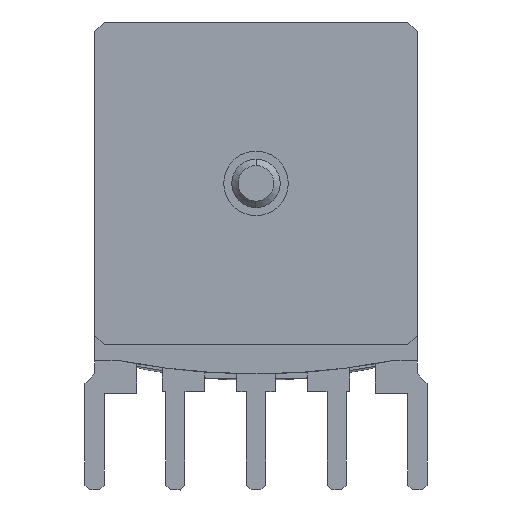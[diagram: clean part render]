
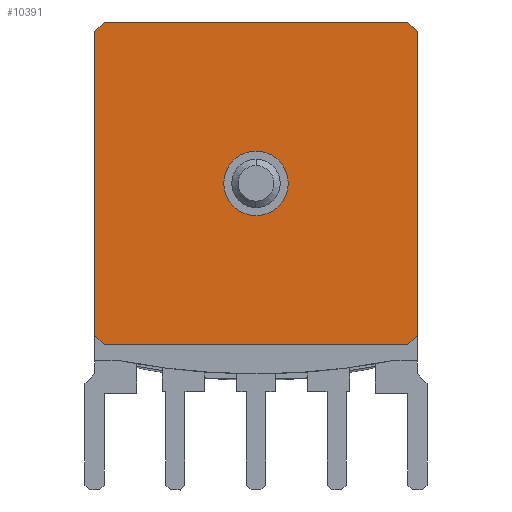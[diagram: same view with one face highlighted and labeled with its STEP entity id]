
A CAD part, front view. The second image highlights one B-rep face of the part: STEP entity #10391.
In plain terms, the highlighted planar face has unit normal (0, -1, 0).
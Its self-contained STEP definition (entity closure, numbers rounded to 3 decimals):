
#4048 = CIRCLE ( 'NONE', #4411, 1. ) ;
#4272 = DIRECTION ( 'NONE',  ( 0., 0., 1. ) ) ;
#4273 = DIRECTION ( 'NONE',  ( 0., 1., 0. ) ) ;
#4274 = CARTESIAN_POINT ( 'NONE',  ( 0., -5.825, 6.1 ) ) ;
#4275 = AXIS2_PLACEMENT_3D ( 'NONE', #4274, #4273, #4272 ) ;
#4276 = CIRCLE ( 'NONE', #4275, 1. ) ;
#4311 = CARTESIAN_POINT ( 'NONE',  ( 1., -5.825, 6.1 ) ) ;
#4409 = DIRECTION ( 'NONE',  ( 0., 1., 0. ) ) ;
#4410 = CARTESIAN_POINT ( 'NONE',  ( 0., -5.825, 6.1 ) ) ;
#4411 = AXIS2_PLACEMENT_3D ( 'NONE', #4410, #4409, #4494 ) ;
#4456 = DIRECTION ( 'NONE',  ( 0., 0., 1. ) ) ;
#4457 = DIRECTION ( 'NONE',  ( 0., 1., 0. ) ) ;
#4458 = CARTESIAN_POINT ( 'NONE',  ( 0., -5.825, 6.1 ) ) ;
#4459 = AXIS2_PLACEMENT_3D ( 'NONE', #4458, #4457, #4456 ) ;
#4460 = CIRCLE ( 'NONE', #4459, 1. ) ;
#4492 = CARTESIAN_POINT ( 'NONE',  ( 0., -5.825, 7.1 ) ) ;
#4493 = CARTESIAN_POINT ( 'NONE',  ( -1., -5.825, 6.1 ) ) ;
#4494 = DIRECTION ( 'NONE',  ( 0., 0., 1. ) ) ;
#5255 = CARTESIAN_POINT ( 'NONE',  ( -4.698, -5.825, 1.1 ) ) ;
#5256 = DIRECTION ( 'NONE',  ( 1., 0., 0. ) ) ;
#5257 = VECTOR ( 'NONE', #5256, 1000. ) ;
#5258 = CARTESIAN_POINT ( 'NONE',  ( -4.998, -5.825, 1.1 ) ) ;
#5259 = LINE ( 'NONE', #5258, #5257 ) ;
#5260 = CARTESIAN_POINT ( 'NONE',  ( 4.702, -5.825, 1.1 ) ) ;
#5393 = CARTESIAN_POINT ( 'NONE',  ( -4.998, -5.825, 1.4 ) ) ;
#6980 = DIRECTION ( 'NONE',  ( 0.707, 0., -0.707 ) ) ;
#6989 = CARTESIAN_POINT ( 'NONE',  ( -4.998, -5.825, 10.8 ) ) ;
#6990 = LINE ( 'NONE', #7055, #7007 ) ;
#7007 = VECTOR ( 'NONE', #7056, 1000. ) ;
#7050 = LINE ( 'NONE', #7060, #7059 ) ;
#7055 = CARTESIAN_POINT ( 'NONE',  ( -4.998, -5.825, 1.1 ) ) ;
#7056 = DIRECTION ( 'NONE',  ( 0., 0., -1. ) ) ;
#7059 = VECTOR ( 'NONE', #6980, 1000. ) ;
#7060 = CARTESIAN_POINT ( 'NONE',  ( -4.998, -5.825, 1.4 ) ) ;
#8080 = CARTESIAN_POINT ( 'NONE',  ( 5.002, -5.825, 10.8 ) ) ;
#8081 = DIRECTION ( 'NONE',  ( 0., 0., 1. ) ) ;
#8082 = VECTOR ( 'NONE', #8081, 1000. ) ;
#8083 = CARTESIAN_POINT ( 'NONE',  ( 5.002, -5.825, 1.4 ) ) ;
#8084 = LINE ( 'NONE', #8083, #8082 ) ;
#8085 = CARTESIAN_POINT ( 'NONE',  ( 5.002, -5.825, 1.4 ) ) ;
#8086 = DIRECTION ( 'NONE',  ( 0.707, 0., 0.707 ) ) ;
#8087 = VECTOR ( 'NONE', #8086, 1000. ) ;
#8088 = CARTESIAN_POINT ( 'NONE',  ( 4.702, -5.825, 1.1 ) ) ;
#8096 = CARTESIAN_POINT ( 'NONE',  ( 4.702, -5.825, 11.1 ) ) ;
#8099 = LINE ( 'NONE', #8088, #8087 ) ;
#8100 = DIRECTION ( 'NONE',  ( 0., 0., -1. ) ) ;
#8101 = DIRECTION ( 'NONE',  ( 0., -1., 0. ) ) ;
#8102 = CARTESIAN_POINT ( 'NONE',  ( -4.998, -5.825, 1.1 ) ) ;
#8103 = AXIS2_PLACEMENT_3D ( 'NONE', #8102, #8101, #8100 ) ;
#8104 = PLANE ( 'NONE',  #8103 ) ;
#8118 = DIRECTION ( 'NONE',  ( -0.707, 0., -0.707 ) ) ;
#8119 = VECTOR ( 'NONE', #8118, 1000. ) ;
#8120 = CARTESIAN_POINT ( 'NONE',  ( -4.698, -5.825, 11.1 ) ) ;
#8138 = CARTESIAN_POINT ( 'NONE',  ( -4.698, -5.825, 11.1 ) ) ;
#8139 = LINE ( 'NONE', #8120, #8119 ) ;
#8140 = DIRECTION ( 'NONE',  ( -1., 0., 0. ) ) ;
#8141 = VECTOR ( 'NONE', #8140, 1000. ) ;
#8142 = CARTESIAN_POINT ( 'NONE',  ( 4.702, -5.825, 11.1 ) ) ;
#8151 = LINE ( 'NONE', #8142, #8141 ) ;
#8152 = DIRECTION ( 'NONE',  ( -0.707, 0., 0.707 ) ) ;
#8153 = VECTOR ( 'NONE', #8152, 1000. ) ;
#8154 = CARTESIAN_POINT ( 'NONE',  ( 5.002, -5.825, 10.8 ) ) ;
#8155 = LINE ( 'NONE', #8154, #8153 ) ;
#8180 = FACE_BOUND ( 'NONE', #10369, .T. ) ;
#8181 = FACE_OUTER_BOUND ( 'NONE', #10392, .T. ) ;
#9579 = EDGE_CURVE ( 'NONE', #9580, #9581, #4048, .T. ) ;
#9580 = VERTEX_POINT ( 'NONE', #4493 ) ;
#9581 = VERTEX_POINT ( 'NONE', #4492 ) ;
#9601 = VERTEX_POINT ( 'NONE', #4311 ) ;
#9603 = EDGE_CURVE ( 'NONE', #9581, #9601, #4276, .T. ) ;
#9608 = EDGE_CURVE ( 'NONE', #9601, #9580, #4460, .T. ) ;
#9904 = VERTEX_POINT ( 'NONE', #5260 ) ;
#9906 = EDGE_CURVE ( 'NONE', #9907, #9904, #5259, .T. ) ;
#9907 = VERTEX_POINT ( 'NONE', #5255 ) ;
#9913 = VERTEX_POINT ( 'NONE', #5393 ) ;
#9992 = EDGE_CURVE ( 'NONE', #9993, #9913, #6990, .T. ) ;
#9993 = VERTEX_POINT ( 'NONE', #6989 ) ;
#9997 = EDGE_CURVE ( 'NONE', #9913, #9907, #7050, .T. ) ;
#10360 = ORIENTED_EDGE ( 'NONE', *, *, #10361, .T. ) ;
#10361 = EDGE_CURVE ( 'NONE', #10399, #10400, #8155, .T. ) ;
#10362 = ORIENTED_EDGE ( 'NONE', *, *, #10363, .T. ) ;
#10363 = EDGE_CURVE ( 'NONE', #10400, #10364, #8151, .T. ) ;
#10364 = VERTEX_POINT ( 'NONE', #8138 ) ;
#10365 = ORIENTED_EDGE ( 'NONE', *, *, #10366, .T. ) ;
#10366 = EDGE_CURVE ( 'NONE', #10364, #9993, #8139, .T. ) ;
#10367 = ORIENTED_EDGE ( 'NONE', *, *, #9992, .T. ) ;
#10368 = ORIENTED_EDGE ( 'NONE', *, *, #9997, .T. ) ;
#10369 = EDGE_LOOP ( 'NONE', ( #10370, #10371, #10372 ) ) ;
#10370 = ORIENTED_EDGE ( 'NONE', *, *, #9603, .T. ) ;
#10371 = ORIENTED_EDGE ( 'NONE', *, *, #9608, .T. ) ;
#10372 = ORIENTED_EDGE ( 'NONE', *, *, #9579, .T. ) ;
#10391 = ADVANCED_FACE ( 'NONE', ( #8181, #8180 ), #8104, .T. ) ;
#10392 = EDGE_LOOP ( 'NONE', ( #10393, #10394, #10397, #10360, #10362, #10365, #10367, #10368 ) ) ;
#10393 = ORIENTED_EDGE ( 'NONE', *, *, #9906, .T. ) ;
#10394 = ORIENTED_EDGE ( 'NONE', *, *, #10395, .T. ) ;
#10395 = EDGE_CURVE ( 'NONE', #9904, #10396, #8099, .T. ) ;
#10396 = VERTEX_POINT ( 'NONE', #8085 ) ;
#10397 = ORIENTED_EDGE ( 'NONE', *, *, #10398, .T. ) ;
#10398 = EDGE_CURVE ( 'NONE', #10396, #10399, #8084, .T. ) ;
#10399 = VERTEX_POINT ( 'NONE', #8080 ) ;
#10400 = VERTEX_POINT ( 'NONE', #8096 ) ;
